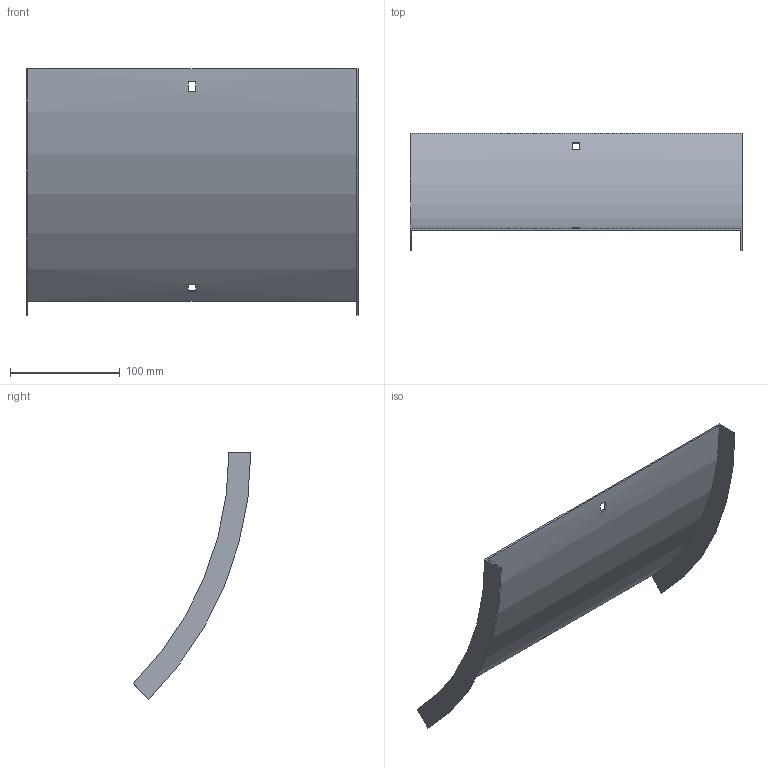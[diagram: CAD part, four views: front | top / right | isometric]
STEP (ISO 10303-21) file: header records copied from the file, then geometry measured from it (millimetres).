
FILE_DESCRIPTION (( 'STEP AP214' ), '1' );
FILE_NAME ('B2X31N3R300X.step', '2025-03-20T09:42:09', ( '' ), ( '' ), 'SwSTEP 2.0', 'SolidWorks 2023', '' );
FILE_SCHEMA (( 'AUTOMOTIVE_DESIGN' ));
Length unit declared in the file: millimetre
Products named in the file (1): B2X31N3R300X
Bounding box: 303 x 107.43 x 225.21 mm (x, y, z)
Volume: 120125.6 mm3; surface area: 162029.3 mm2
Topology: 1 solids, 1 shells, 18 faces, 48 edges, 32 vertices
Faces by surface type: plane 14, cylinder 4
Entity records: 599 total; most frequent: DIRECTION 102, CARTESIAN_POINT 99, ORIENTED_EDGE 96, EDGE_CURVE 48, AXIS2_PLACEMENT_3D 35, VERTEX_POINT 32, LINE 32, VECTOR 32
